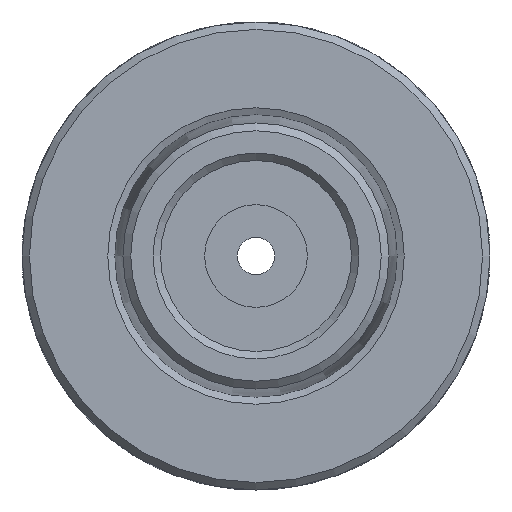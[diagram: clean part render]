
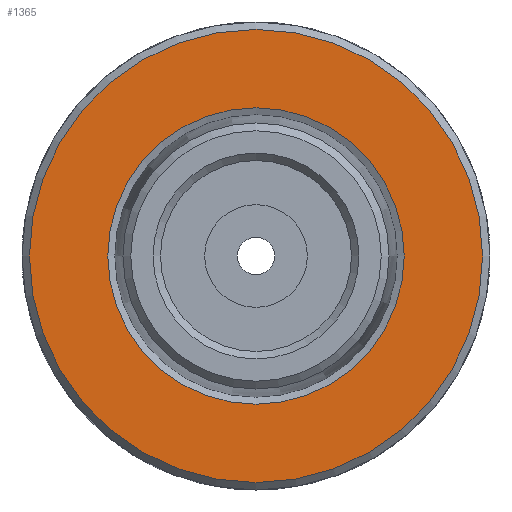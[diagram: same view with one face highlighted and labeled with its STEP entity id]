
A CAD part, left-side view. The second image highlights one B-rep face of the part: STEP entity #1365.
In plain terms, the highlighted planar face has unit normal (-1, 0, 0).
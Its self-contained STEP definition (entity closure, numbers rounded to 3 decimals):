
#41=FACE_BOUND('',#328,.T.);
#153=CIRCLE('',#1549,30.5);
#154=CIRCLE('',#1551,19.95);
#235=FACE_OUTER_BOUND('',#327,.T.);
#327=EDGE_LOOP('',(#1124));
#328=EDGE_LOOP('',(#1125));
#632=VERTEX_POINT('',#2461);
#633=VERTEX_POINT('',#2465);
#801=EDGE_CURVE('',#632,#632,#153,.T.);
#802=EDGE_CURVE('',#633,#633,#154,.T.);
#1124=ORIENTED_EDGE('',*,*,#801,.F.);
#1125=ORIENTED_EDGE('',*,*,#802,.T.);
#1255=PLANE('',#1550);
#1365=ADVANCED_FACE('',(#235,#41),#1255,.T.);
#1549=AXIS2_PLACEMENT_3D('',#2463,#1886,#1887);
#1550=AXIS2_PLACEMENT_3D('',#2464,#1888,#1889);
#1551=AXIS2_PLACEMENT_3D('',#2466,#1890,#1891);
#1886=DIRECTION('center_axis',(1.,0.,0.));
#1887=DIRECTION('ref_axis',(0.,-1.,0.));
#1888=DIRECTION('center_axis',(-1.,0.,0.));
#1889=DIRECTION('ref_axis',(0.,0.,1.));
#1890=DIRECTION('center_axis',(1.,0.,0.));
#1891=DIRECTION('ref_axis',(0.,0.,-1.));
#2461=CARTESIAN_POINT('',(-23.,30.5,0.));
#2463=CARTESIAN_POINT('Origin',(-23.,0.,0.));
#2464=CARTESIAN_POINT('Origin',(-23.,31.5,0.));
#2465=CARTESIAN_POINT('',(-23.,-19.95,0.));
#2466=CARTESIAN_POINT('Origin',(-23.,0.,0.));
